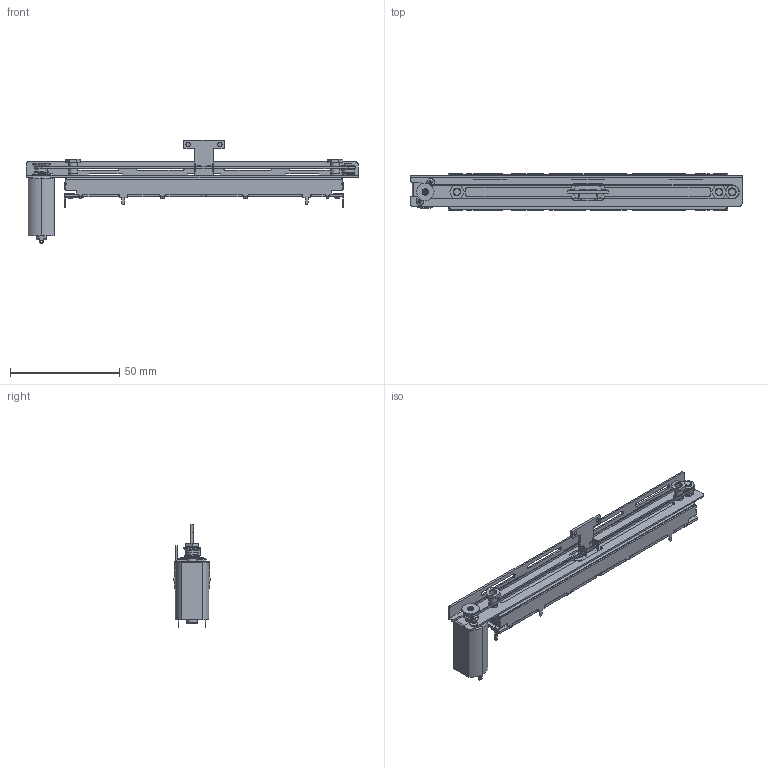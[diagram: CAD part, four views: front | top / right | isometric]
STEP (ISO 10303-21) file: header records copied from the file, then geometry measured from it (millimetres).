
FILE_DESCRIPTION(('FreeCAD Model'),'2;1');
FILE_NAME('Open CASCADE Shape Model','2023-03-17T16:25:18',(''),(''), 'Open CASCADE STEP processor 7.6','FreeCAD','Unknown');
FILE_SCHEMA(('AUTOMOTIVE_DESIGN { 1 0 10303 214 1 1 1 1 }'));
Products named in the file (1): Fusion002016
Bounding box: 152 x 16.5 x 47.5 mm (x, y, z)
Volume: 25213.8 mm3; surface area: 22570.8 mm2
Topology: 5 solids, 11 shells, 1265 faces, 3242 edges, 2001 vertices
Faces by surface type: plane 901, cylinder 297, cone 31, extrusion 16, bspline 8, torus 6, revolution 4, sphere 2
Full cylindrical faces by diameter (mm): 0.5 x15, 1.2 x6, 1.25 x2, 1.3 x1, 1.5 x4, 2 x9, 3 x10, 3.2 x2, 3.5 x7, 3.7 x1, 4 x3, 4.5 x2, 4.7 x2, 5 x2, 5.38 x1, 5.6 x1, 6 x2, 6.5 x1, 8 x1
Entity records: 90615 total; most frequent: CARTESIAN_POINT 22620, DIRECTION 10116, ORIENTED_EDGE 6852, PCURVE 6480, DEFINITIONAL_REPRESENTATION 6480, VECTOR 5753, LINE 5737, EDGE_CURVE 3240
